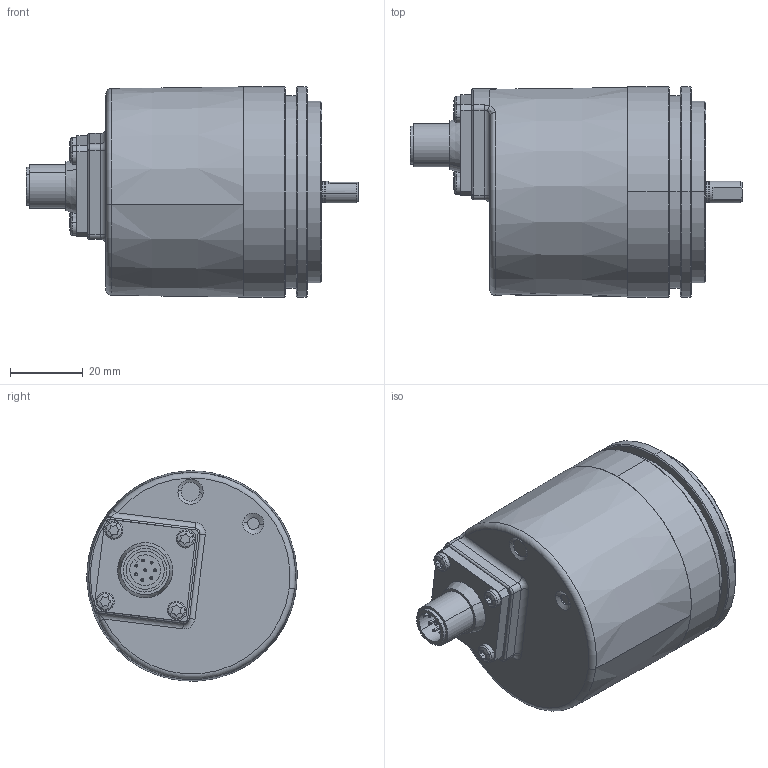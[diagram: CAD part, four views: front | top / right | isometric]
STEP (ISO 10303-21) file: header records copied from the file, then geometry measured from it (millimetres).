
FILE_DESCRIPTION (( 'STEP AP214' ), '1' );
FILE_NAME ('8.F5863.21X5.XXXX.STEP', '2014-05-22T09:10:24', ( 'HeirlerN' ), ( 'Microsoft' ), 'SwSTEP 2.0', 'SolidWorks 2013', '' );
FILE_SCHEMA (( 'AUTOMOTIVE_DESIGN' ));
Length unit declared in the file: millimetre
Products named in the file (1): 8.F5863.21X5.XXXX
Bounding box: 91.5 x 58 x 58 mm (x, y, z)
Volume: 77185.4 mm3; surface area: 43663.6 mm2
Topology: 9 solids, 9 shells, 783 faces, 1913 edges, 1143 vertices
Faces by surface type: cylinder 236, plane 188, cone 174, torus 101, sphere 44, bspline 40
Entity records: 32819 total; most frequent: CARTESIAN_POINT 6192, DIRECTION 4000, ORIENTED_EDGE 3586, EDGE_CURVE 1793, AXIS2_PLACEMENT_3D 1690, VERTEX_POINT 1097, CIRCLE 946, EDGE_LOOP 886
